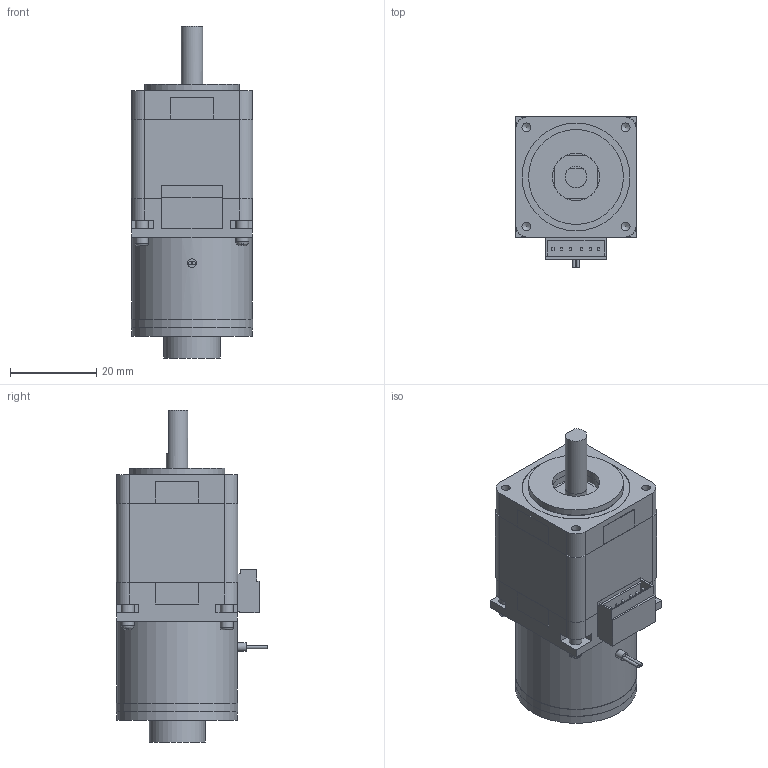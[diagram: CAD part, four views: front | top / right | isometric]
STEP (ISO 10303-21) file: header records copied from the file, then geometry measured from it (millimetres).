
FILE_DESCRIPTION(/* description */ (''),/* implementation_level */ '2;1');
FILE_NAME(/* name */ 'UB28D12-D07-432.stp',/* time_stamp */ '2018-08-17T15:12:15+08:00',/* author */ (''),/* organization */ (''),/* preprocessor_version */ 'ST-DEVELOPER v11',/* originating_system */ 'SIEMENS UGS NX 6.0',/* authorisation */ '');
FILE_SCHEMA (('CONFIG_CONTROL_DESIGN'));
Length unit declared in the file: millimetre
Products named in the file (1): UB28D12-D07-432
Bounding box: 28.2 x 35.1 x 77 mm (x, y, z)
Volume: 59098.2 mm3; surface area: 15903.9 mm2
Topology: 14 solids, 19 shells, 321 faces, 786 edges, 524 vertices
Faces by surface type: plane 275, cylinder 38, cone 4, bspline 3, torus 1
Full cylindrical faces by diameter (mm): 0.7 x2, 2 x1, 2.05 x4, 3 x8, 5 x3, 6 x1, 10 x1, 11 x2, 13 x1, 14.3 x1, 22 x2, 25 x1, 28 x2, 28.2 x1
Entity records: 9385 total; most frequent: CARTESIAN_POINT 2034, ORIENTED_EDGE 1446, DIRECTION 1410, EDGE_CURVE 723, LINE 576, VECTOR 576, VERTEX_POINT 503, AXIS2_PLACEMENT_3D 417
